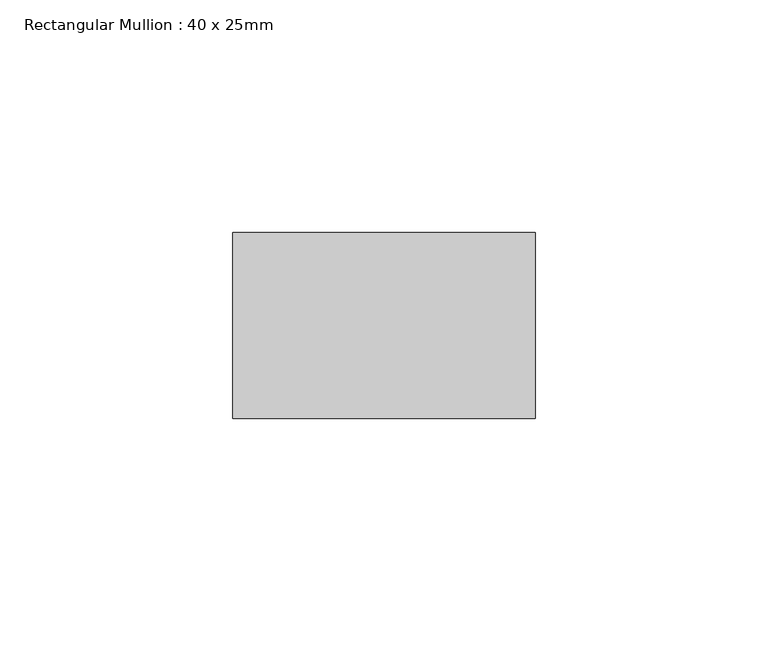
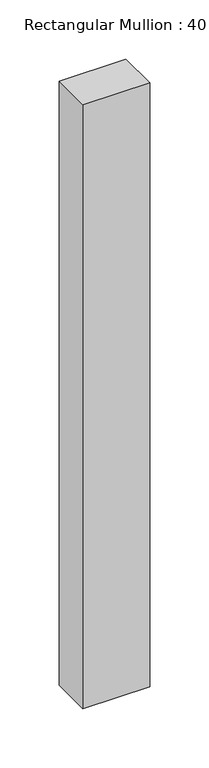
"""IFC4 building model written with IfcOpenShell, lengths in millimetres: member geometry, Rectangular Mullion : 40 x 25mm."""

from ifc_helpers import new_model, si_unit, frame, origin, place, context, project, spatial, polyline, outline, extrude, source, transform, mapped, element, save


def rectangular_mullion_40_x_25mm_f2a9dc30(model_context):
    return source(origin(), model_context, "Body", "SweptSolid", [
        extrude(outline(polyline([(0.0, -20.0), (0.0, -60.0), (-65.0, -60.0), (-65.0, -20.0), (0.0, -20.0)])), frame((0.0, 0.0, -622.1332885), z_axis=(0.0, 0.0, 1.0), x_axis=(1.0, 0.0, 0.0)), (0.0, 0.0, 1.0), 622.1332885),
    ])


if __name__ == "__main__":
    model = new_model("IFC4")
    model_context = context("Model", 3, world=origin())
    ifc_project = project(units=[si_unit("LENGTHUNIT", "METRE", prefix="MILLI")], contexts=[model_context])
    site = spatial("IfcSite", under=ifc_project)
    building = spatial("IfcBuilding", under=site)
    placement = place(None, origin())
    rectangular_mullion_40_x_25mm_shape = rectangular_mullion_40_x_25mm_f2a9dc30(model_context)
    element("IfcMember", 1, ObjectType="Rectangular Mullion : 40 x 25mm", at=placement, inside=building, context=model_context, shape_type="MappedRepresentation", body=[
        mapped(rectangular_mullion_40_x_25mm_shape, transform((0.0, 0.0, 0.0), x_axis=(1.0, 0.0, 0.0), y_axis=(0.0, 1.0, 0.0), z_axis=(0.0, 0.0, 1.0))),
    ])
    save(model, "model.ifc")
